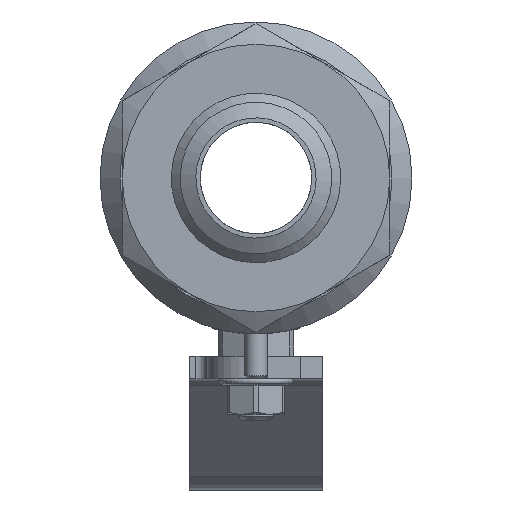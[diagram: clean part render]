
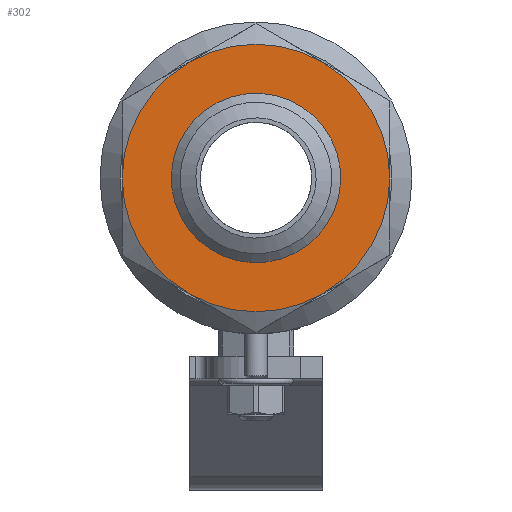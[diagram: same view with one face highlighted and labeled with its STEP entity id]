
A CAD part, left-side view. The second image highlights one B-rep face of the part: STEP entity #302.
In plain terms, the highlighted planar face has unit normal (-1, 0, 0).
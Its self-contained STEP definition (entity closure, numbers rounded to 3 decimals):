
#302=ADVANCED_FACE('',(#2471,#2473),#2475,.T.);
#2471=FACE_BOUND('',#2472,.T.);
#2472=EDGE_LOOP('',(#3596));
#2473=FACE_OUTER_BOUND('',#2474,.T.);
#2474=EDGE_LOOP('',(#3597,#3598,#3599,#3600,#3601,#3602));
#2475=PLANE('',#2476);
#2476=AXIS2_PLACEMENT_3D('',#2477,#2478,#2479);
#2477=CARTESIAN_POINT('',(-90.5,0.,0.));
#2478=DIRECTION('',(-1.,0.,0.));
#2479=DIRECTION('',(0.,0.991,0.134));
#3596=ORIENTED_EDGE('',*,*,#4646,.F.);
#3597=ORIENTED_EDGE('',*,*,#4635,.F.);
#3598=ORIENTED_EDGE('',*,*,#4640,.F.);
#3599=ORIENTED_EDGE('',*,*,#4639,.F.);
#3600=ORIENTED_EDGE('',*,*,#4638,.F.);
#3601=ORIENTED_EDGE('',*,*,#4637,.F.);
#3602=ORIENTED_EDGE('',*,*,#4636,.F.);
#4635=EDGE_CURVE('',#5394,#5369,#5402,.T.);
#4636=EDGE_CURVE('',#5369,#5374,#5403,.T.);
#4637=EDGE_CURVE('',#5374,#5379,#5404,.T.);
#4638=EDGE_CURVE('',#5379,#5384,#5405,.T.);
#4639=EDGE_CURVE('',#5384,#5389,#5406,.T.);
#4640=EDGE_CURVE('',#5389,#5394,#5407,.T.);
#4646=EDGE_CURVE('',#5416,#5416,#5417,.F.);
#5369=VERTEX_POINT('',#10049);
#5374=VERTEX_POINT('',#10105);
#5379=VERTEX_POINT('',#10163);
#5384=VERTEX_POINT('',#10221);
#5389=VERTEX_POINT('',#10279);
#5394=VERTEX_POINT('',#10337);
#5402=CIRCLE('',#10404,30.);
#5403=CIRCLE('',#10408,30.);
#5404=CIRCLE('',#10412,30.);
#5405=CIRCLE('',#10416,30.);
#5406=CIRCLE('',#10420,30.);
#5407=CIRCLE('',#10424,30.);
#5416=VERTEX_POINT('',#10449);
#5417=CIRCLE('',#10450,19.);
#10049=CARTESIAN_POINT('',(-90.5,30.,0.));
#10105=CARTESIAN_POINT('',(-90.5,15.,25.981));
#10163=CARTESIAN_POINT('',(-90.5,-15.,25.981));
#10221=CARTESIAN_POINT('',(-90.5,-30.,0.));
#10279=CARTESIAN_POINT('',(-90.5,-15.,-25.981));
#10337=CARTESIAN_POINT('',(-90.5,15.,-25.981));
#10404=AXIS2_PLACEMENT_3D('',#10405,#10406,#10407);
#10405=CARTESIAN_POINT('',(-90.5,0.,0.));
#10406=DIRECTION('',(1.,0.,0.));
#10407=DIRECTION('',(0.,0.5,-0.866));
#10408=AXIS2_PLACEMENT_3D('',#10409,#10410,#10411);
#10409=CARTESIAN_POINT('',(-90.5,0.,0.));
#10410=DIRECTION('',(1.,0.,0.));
#10411=DIRECTION('',(0.,1.,0.));
#10412=AXIS2_PLACEMENT_3D('',#10413,#10414,#10415);
#10413=CARTESIAN_POINT('',(-90.5,0.,0.));
#10414=DIRECTION('',(1.,0.,0.));
#10415=DIRECTION('',(0.,0.5,0.866));
#10416=AXIS2_PLACEMENT_3D('',#10417,#10418,#10419);
#10417=CARTESIAN_POINT('',(-90.5,0.,0.));
#10418=DIRECTION('',(1.,0.,0.));
#10419=DIRECTION('',(0.,-0.5,0.866));
#10420=AXIS2_PLACEMENT_3D('',#10421,#10422,#10423);
#10421=CARTESIAN_POINT('',(-90.5,0.,0.));
#10422=DIRECTION('',(1.,0.,0.));
#10423=DIRECTION('',(0.,-1.,0.));
#10424=AXIS2_PLACEMENT_3D('',#10425,#10426,#10427);
#10425=CARTESIAN_POINT('',(-90.5,0.,0.));
#10426=DIRECTION('',(1.,0.,0.));
#10427=DIRECTION('',(0.,-0.5,-0.866));
#10449=CARTESIAN_POINT('',(-90.5,10.234,-16.009));
#10450=AXIS2_PLACEMENT_3D('',#10451,#10452,#10453);
#10451=CARTESIAN_POINT('',(-90.5,0.,0.));
#10452=DIRECTION('',(1.,0.,0.));
#10453=DIRECTION('',(0.,0.539,-0.843));
